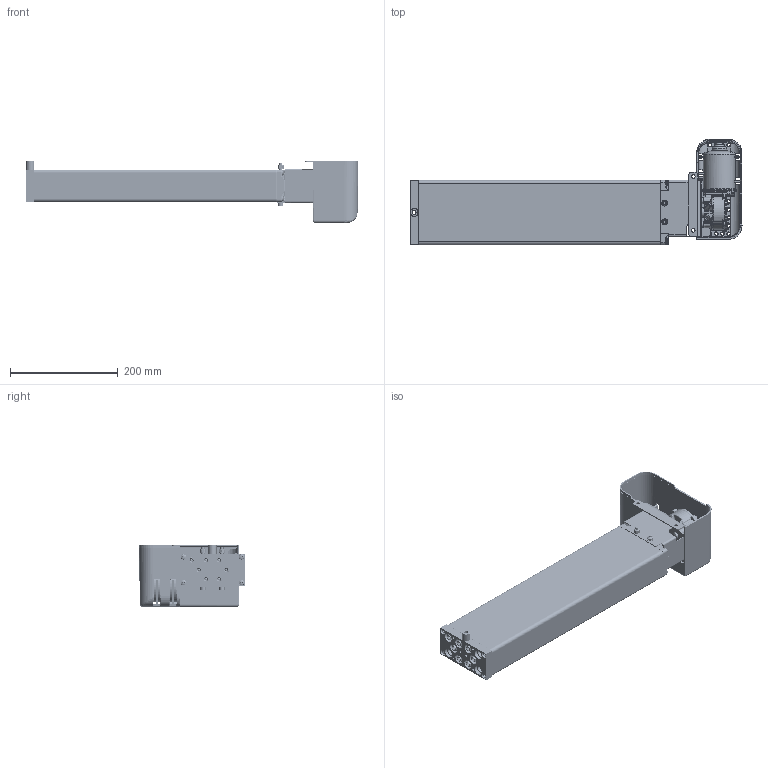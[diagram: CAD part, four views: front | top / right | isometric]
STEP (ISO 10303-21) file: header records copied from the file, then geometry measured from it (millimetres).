
FILE_DESCRIPTION(/* description */ ('Unknown'),/* implementation_level */ '2;1');
FILE_NAME(/* name */ '3X2.20181 Pumpe PB 7418 W mit Antrieb',/* time_stamp */ '2016-11-25T11:45:43+01:00',/* author */ ('Unknown'),/* organization */ ('Unknown'),/* preprocessor_version */ 'ST-DEVELOPER v16.7',/* originating_system */ 'DEX',/* authorisation */ $);
FILE_SCHEMA (('AUTOMOTIVE_DESIGN {1 0 10303 214 3 1 1}'));
Products named in the file (32): 102.00181; 115.10023; 125.00031; 115.00007; 142.00021; 125.00021; 142.00013; 125.00143; 115.00140; 126.00006; 122.00040; 119.00043; 126.00036; 127.00201; 127.00200; 127.00023; 124.00090; Getriebe; Ring; Schraube; Stator; Abdeckplatte; Antriebswelle; 128.00051; 123.00031; 142.00018; 142.00019; 142.00025; 142.00131; 123.00029; 142.00057; 142.00017
Assembly tree (50 placements, depth 3):
  102.00181
    115.10023  x7
      125.00031
      115.00007
      142.00021
      125.00021
    142.00013  x8
    125.00143
    115.00140
      126.00006
      122.00040
    119.00043
    126.00036
    127.00201
      127.00200
      127.00023
    124.00090
      Getriebe
      Ring
      Schraube
      Stator
      Abdeckplatte
      Antriebswelle
    128.00051
    123.00031
    142.00018  x2
    142.00019  x2
    142.00025  x2
    142.00131  x3
    123.00029
    142.00057
    142.00017  x2
Bounding box: 616.45 x 196.04 x 115.45 mm (x, y, z)
Volume: 1112077.9 mm3; surface area: 712749 mm2
Topology: 57 solids, 59 shells, 4309 faces, 10843 edges, 6647 vertices
Faces by surface type: plane 1331, cylinder 1169, bspline 1040, cone 478, torus 194, sphere 97
Full cylindrical faces by diameter (mm): 2.5 x4, 3.2 x4, 3.5 x7, 3.9 x5, 4.1 x7, 4.134 x4, 4.2 x9, 4.4 x5, 4.5 x1, 4.917 x4, 5 x8, 5.5 x5, 5.8 x4, 6 x8, 6.4 x2, 6.8 x6, 6.917 x14, 7 x1, 8 x16, 8.5 x6, 9 x9, 9.5 x1, 9.8 x8, 10 x10, 10.3 x1, 10.32 x1, 10.4 x1, 10.5 x4, 11 x5, 12.5 x7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
Entity records: 164928 total; most frequent: CARTESIAN_POINT 80619, ORIENTED_EDGE 16008, DIRECTION 12021, EDGE_CURVE 8004, VERTEX_POINT 5254, AXIS2_PLACEMENT_3D 4654, FACE_BOUND 4000, EDGE_LOOP 3995
